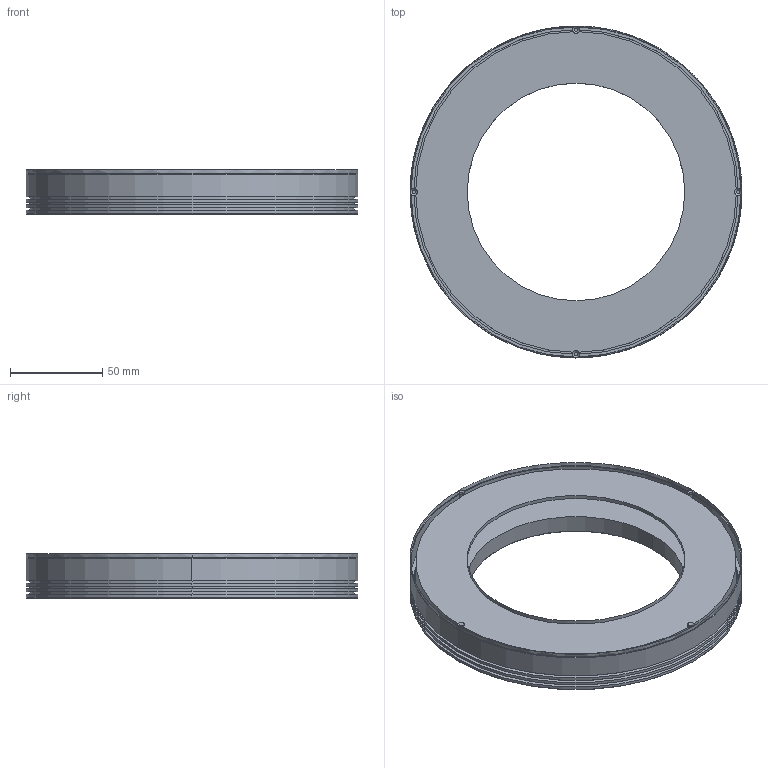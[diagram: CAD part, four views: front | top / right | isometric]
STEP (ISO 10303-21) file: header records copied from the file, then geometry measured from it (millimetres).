
FILE_DESCRIPTION((''),'2;1');
FILE_NAME('TRL-140-0','2020-03-28T',('ASUS'),(''),'PRO/ENGINEER BY PARAMETRIC TECHNOLOGY CORPORATION, 2008380','PRO/ENGINEER BY PARAMETRIC TECHNOLOGY CORPORATION, 2008380','');
FILE_SCHEMA(('CONFIG_CONTROL_DESIGN'));
Length unit declared in the file: millimetre
Products named in the file (1): TRL-140-0
Bounding box: 180 x 180 x 24 mm (x, y, z)
Volume: 188703.7 mm3; surface area: 57536.3 mm2
Topology: 1 solids, 1 shells, 71 faces, 156 edges, 95 vertices
Faces by surface type: cylinder 38, plane 19, cone 14
Entity records: 2041 total; most frequent: CARTESIAN_POINT 450, DIRECTION 354, ORIENTED_EDGE 292, AXIS2_PLACEMENT_3D 151, EDGE_CURVE 146, VERTEX_POINT 90, EDGE_LOOP 86, CIRCLE 80
